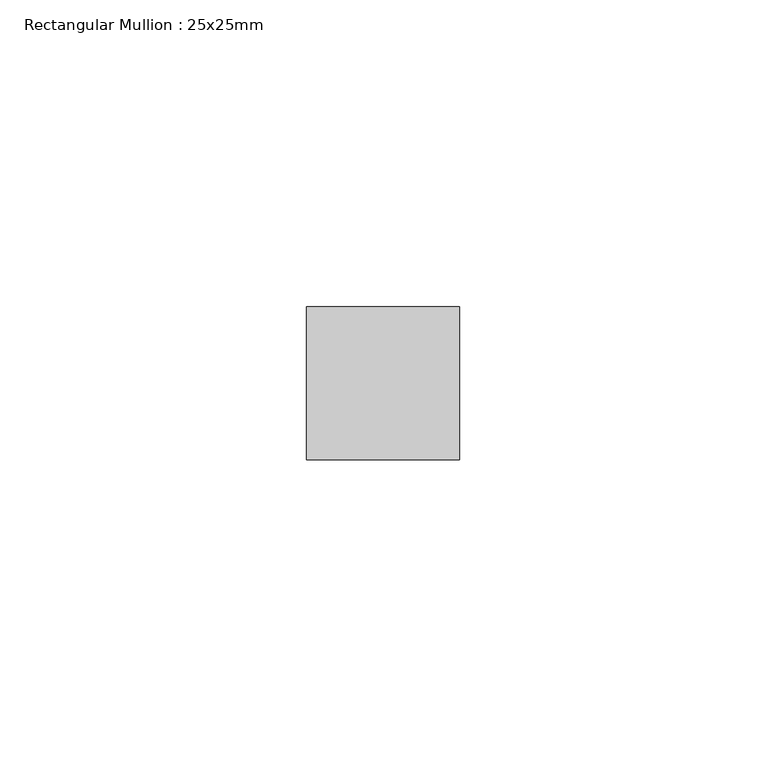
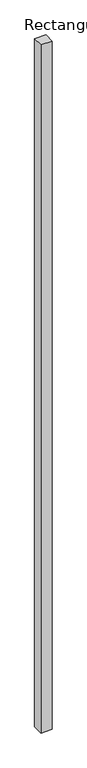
"""IFC4 building model written with IfcOpenShell, lengths in millimetres: member geometry, Rectangular Mullion : 25x25mm."""

from ifc_helpers import new_model, si_unit, frame, origin, place, context, project, spatial, polyline, outline, extrude, source, transform, mapped, element, save


def rectangular_mullion_25x25mm_8d901635(model_context):
    return source(origin(), model_context, "Body", "SweptSolid", [
        extrude(outline(polyline([(12.5, 0.5), (12.5, -24.5), (-12.5, -24.5), (-12.5, 0.5), (12.5, 0.5)])), frame((0.0, 0.0, -1635.0), z_axis=(0.0, 0.0, 1.0), x_axis=(1.0, 0.0, 0.0)), (0.0, 0.0, 1.0), 1635.0),
    ])


if __name__ == "__main__":
    model = new_model("IFC4")
    model_context = context("Model", 3, world=origin())
    ifc_project = project(units=[si_unit("LENGTHUNIT", "METRE", prefix="MILLI")], contexts=[model_context])
    site = spatial("IfcSite", under=ifc_project)
    building = spatial("IfcBuilding", under=site)
    placement = place(None, origin())
    rectangular_mullion_25x25mm_shape = rectangular_mullion_25x25mm_8d901635(model_context)
    element("IfcMember", 1, ObjectType="Rectangular Mullion : 25x25mm", at=placement, inside=building, context=model_context, shape_type="MappedRepresentation", body=[
        mapped(rectangular_mullion_25x25mm_shape, transform((0.0, 0.0, 0.0), x_axis=(1.0, 0.0, 0.0), y_axis=(0.0, 1.0, 0.0), z_axis=(0.0, 0.0, 1.0))),
    ])
    save(model, "model.ifc")
